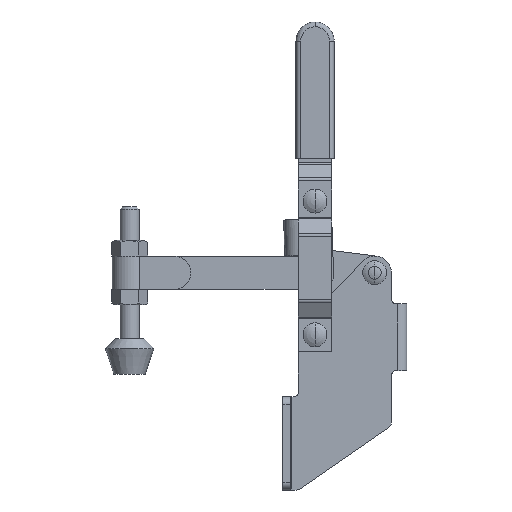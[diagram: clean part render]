
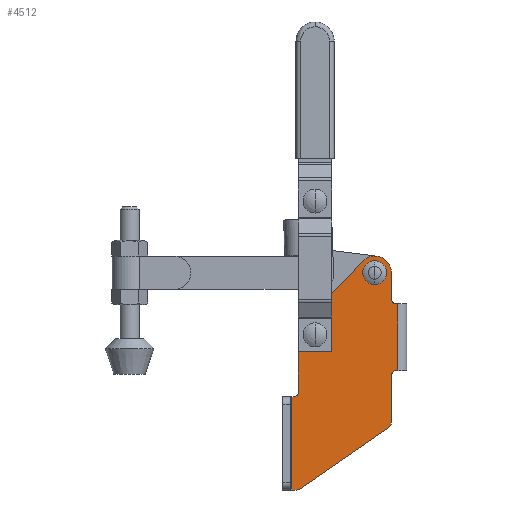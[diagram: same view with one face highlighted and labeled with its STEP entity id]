
A CAD part, front view. The second image highlights one B-rep face of the part: STEP entity #4512.
In plain terms, the highlighted planar face has unit normal (0, -1, 0).
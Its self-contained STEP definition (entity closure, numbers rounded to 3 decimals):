
#2732=CARTESIAN_POINT('Cartesian Point',(111.65,-6.4,29.428)) ;
#2735=CARTESIAN_POINT('Line Origine',(112.,-6.4,29.428)) ;
#2739=CARTESIAN_POINT('Cartesian Point',(112.35,-6.4,29.428)) ;
#2813=CARTESIAN_POINT('Cartesian Point',(111.65,-6.4,1.428)) ;
#2883=CARTESIAN_POINT('Cartesian Point',(112.35,-6.4,1.428)) ;
#2886=CARTESIAN_POINT('Line Origine',(112.,-6.4,1.428)) ;
#3786=CARTESIAN_POINT('Cartesian Point',(72.604,-6.4,21.28)) ;
#3802=CARTESIAN_POINT('Cartesian Point',(70.65,-6.4,16.428)) ;
#3805=CARTESIAN_POINT('Axis2P3D Location',(77.65,-6.4,16.428)) ;
#3826=CARTESIAN_POINT('Cartesian Point',(97.604,-6.4,47.28)) ;
#3836=CARTESIAN_POINT('Line Origine',(85.104,-6.4,34.28)) ;
#3857=CARTESIAN_POINT('Cartesian Point',(109.65,-6.4,42.428)) ;
#3867=CARTESIAN_POINT('Axis2P3D Location',(102.65,-6.4,42.428)) ;
#3888=CARTESIAN_POINT('Cartesian Point',(109.65,-6.4,31.428)) ;
#3898=CARTESIAN_POINT('Line Origine',(109.65,-6.4,36.928)) ;
#3920=CARTESIAN_POINT('Axis2P3D Location',(111.65,-6.4,31.428)) ;
#3941=CARTESIAN_POINT('Cartesian Point',(109.65,-6.4,-0.572)) ;
#3951=CARTESIAN_POINT('Axis2P3D Location',(111.65,-6.4,-0.572)) ;
#3972=CARTESIAN_POINT('Cartesian Point',(109.65,-6.4,-20.)) ;
#3982=CARTESIAN_POINT('Line Origine',(109.65,-6.4,-10.286)) ;
#4003=CARTESIAN_POINT('Cartesian Point',(108.358,-6.4,-22.467)) ;
#4013=CARTESIAN_POINT('Axis2P3D Location',(106.65,-6.4,-20.)) ;
#4034=CARTESIAN_POINT('Cartesian Point',(71.421,-6.4,-48.039)) ;
#4044=CARTESIAN_POINT('Line Origine',(89.889,-6.4,-35.253)) ;
#4065=CARTESIAN_POINT('Cartesian Point',(69.713,-6.4,-48.572)) ;
#4075=CARTESIAN_POINT('Axis2P3D Location',(69.713,-6.4,-45.572)) ;
#4120=CARTESIAN_POINT('Line Origine',(68.781,-6.4,-48.572)) ;
#4124=CARTESIAN_POINT('Cartesian Point',(67.85,-6.4,-48.572)) ;
#4247=CARTESIAN_POINT('Cartesian Point',(67.85,-6.4,-9.572)) ;
#4250=CARTESIAN_POINT('Line Origine',(68.25,-6.4,-9.572)) ;
#4254=CARTESIAN_POINT('Cartesian Point',(68.65,-6.4,-9.572)) ;
#4296=CARTESIAN_POINT('Cartesian Point',(70.65,-6.4,-7.572)) ;
#4306=CARTESIAN_POINT('Axis2P3D Location',(68.65,-6.4,-7.572)) ;
#4328=CARTESIAN_POINT('Line Origine',(70.65,-6.4,4.428)) ;
#4434=CARTESIAN_POINT('Line Origine',(67.85,-6.4,26.428)) ;
#4446=CARTESIAN_POINT('Axis2P3D Location',(112.35,-6.4,101.428)) ;
#4451=CARTESIAN_POINT('Line Origine',(112.35,-6.4,15.428)) ;
#4476=CARTESIAN_POINT('Axis2P3D Location',(77.65,-6.4,16.428)) ;
#4480=CARTESIAN_POINT('Cartesian Point',(77.65,-6.4,19.628)) ;
#4482=CARTESIAN_POINT('Cartesian Point',(77.65,-6.4,13.228)) ;
#4485=CARTESIAN_POINT('Axis2P3D Location',(77.65,-6.4,16.428)) ;
#4494=CARTESIAN_POINT('Axis2P3D Location',(102.65,-6.4,42.428)) ;
#4498=CARTESIAN_POINT('Cartesian Point',(102.65,-6.4,45.628)) ;
#4500=CARTESIAN_POINT('Cartesian Point',(102.65,-6.4,39.228)) ;
#4503=CARTESIAN_POINT('Axis2P3D Location',(102.65,-6.4,42.428)) ;
#2736=DIRECTION('Vector Direction',(1.,0.,0.)) ;
#2887=DIRECTION('Vector Direction',(1.,0.,0.)) ;
#3806=DIRECTION('Axis2P3D Direction',(0.,-1.,0.)) ;
#3837=DIRECTION('Vector Direction',(0.693,0.,0.721)) ;
#3868=DIRECTION('Axis2P3D Direction',(0.,-1.,0.)) ;
#3899=DIRECTION('Vector Direction',(0.,0.,1.)) ;
#3921=DIRECTION('Axis2P3D Direction',(0.,-1.,0.)) ;
#3952=DIRECTION('Axis2P3D Direction',(0.,-1.,0.)) ;
#3983=DIRECTION('Vector Direction',(0.,0.,1.)) ;
#4014=DIRECTION('Axis2P3D Direction',(0.,-1.,0.)) ;
#4045=DIRECTION('Vector Direction',(0.822,0.,0.569)) ;
#4076=DIRECTION('Axis2P3D Direction',(0.,-1.,0.)) ;
#4121=DIRECTION('Vector Direction',(1.,0.,0.)) ;
#4251=DIRECTION('Vector Direction',(1.,0.,0.)) ;
#4307=DIRECTION('Axis2P3D Direction',(0.,-1.,0.)) ;
#4329=DIRECTION('Vector Direction',(0.,0.,1.)) ;
#4435=DIRECTION('Vector Direction',(0.,0.,1.)) ;
#4447=DIRECTION('Axis2P3D Direction',(0.,-1.,0.)) ;
#4448=DIRECTION('Axis2P3D XDirection',(0.,0.,1.)) ;
#4452=DIRECTION('Vector Direction',(0.,0.,-1.)) ;
#4477=DIRECTION('Axis2P3D Direction',(0.,-1.,0.)) ;
#4486=DIRECTION('Axis2P3D Direction',(0.,-1.,0.)) ;
#4495=DIRECTION('Axis2P3D Direction',(0.,-1.,0.)) ;
#4504=DIRECTION('Axis2P3D Direction',(0.,-1.,0.)) ;
#3807=AXIS2_PLACEMENT_3D('Circle Axis2P3D',#3805,#3806,$) ;
#3869=AXIS2_PLACEMENT_3D('Circle Axis2P3D',#3867,#3868,$) ;
#3922=AXIS2_PLACEMENT_3D('Circle Axis2P3D',#3920,#3921,$) ;
#3953=AXIS2_PLACEMENT_3D('Circle Axis2P3D',#3951,#3952,$) ;
#4015=AXIS2_PLACEMENT_3D('Circle Axis2P3D',#4013,#4014,$) ;
#4077=AXIS2_PLACEMENT_3D('Circle Axis2P3D',#4075,#4076,$) ;
#4308=AXIS2_PLACEMENT_3D('Circle Axis2P3D',#4306,#4307,$) ;
#4449=AXIS2_PLACEMENT_3D('Plane Axis2P3D',#4446,#4447,#4448) ;
#4478=AXIS2_PLACEMENT_3D('Circle Axis2P3D',#4476,#4477,$) ;
#4487=AXIS2_PLACEMENT_3D('Circle Axis2P3D',#4485,#4486,$) ;
#4496=AXIS2_PLACEMENT_3D('Circle Axis2P3D',#4494,#4495,$) ;
#4505=AXIS2_PLACEMENT_3D('Circle Axis2P3D',#4503,#4504,$) ;
#4457=ORIENTED_EDGE('Oriented Edge',*,*,#4438,.T.) ;
#4458=ORIENTED_EDGE('Oriented Edge',*,*,#4126,.T.) ;
#4459=ORIENTED_EDGE('Oriented Edge',*,*,#4079,.T.) ;
#4460=ORIENTED_EDGE('Oriented Edge',*,*,#4048,.T.) ;
#4461=ORIENTED_EDGE('Oriented Edge',*,*,#4017,.T.) ;
#4462=ORIENTED_EDGE('Oriented Edge',*,*,#3986,.T.) ;
#4463=ORIENTED_EDGE('Oriented Edge',*,*,#3955,.F.) ;
#4464=ORIENTED_EDGE('Oriented Edge',*,*,#2890,.T.) ;
#4465=ORIENTED_EDGE('Oriented Edge',*,*,#4455,.F.) ;
#4466=ORIENTED_EDGE('Oriented Edge',*,*,#2741,.F.) ;
#4467=ORIENTED_EDGE('Oriented Edge',*,*,#3924,.F.) ;
#4468=ORIENTED_EDGE('Oriented Edge',*,*,#3902,.T.) ;
#4469=ORIENTED_EDGE('Oriented Edge',*,*,#3871,.T.) ;
#4470=ORIENTED_EDGE('Oriented Edge',*,*,#3840,.F.) ;
#4471=ORIENTED_EDGE('Oriented Edge',*,*,#3809,.T.) ;
#4472=ORIENTED_EDGE('Oriented Edge',*,*,#4332,.F.) ;
#4473=ORIENTED_EDGE('Oriented Edge',*,*,#4310,.F.) ;
#4474=ORIENTED_EDGE('Oriented Edge',*,*,#4256,.F.) ;
#4491=ORIENTED_EDGE('Oriented Edge',*,*,#4484,.F.) ;
#4492=ORIENTED_EDGE('Oriented Edge',*,*,#4489,.F.) ;
#4509=ORIENTED_EDGE('Oriented Edge',*,*,#4502,.F.) ;
#4510=ORIENTED_EDGE('Oriented Edge',*,*,#4507,.F.) ;
#4493=FACE_BOUND('Face Bound',#4490,.T.) ;
#4511=FACE_BOUND('Face Bound',#4508,.T.) ;
#2737=VECTOR('Line Direction',#2736,1.) ;
#2888=VECTOR('Line Direction',#2887,1.) ;
#3838=VECTOR('Line Direction',#3837,1.) ;
#3900=VECTOR('Line Direction',#3899,1.) ;
#3984=VECTOR('Line Direction',#3983,1.) ;
#4046=VECTOR('Line Direction',#4045,1.) ;
#4122=VECTOR('Line Direction',#4121,1.) ;
#4252=VECTOR('Line Direction',#4251,1.) ;
#4330=VECTOR('Line Direction',#4329,1.) ;
#4436=VECTOR('Line Direction',#4435,1.) ;
#4453=VECTOR('Line Direction',#4452,1.) ;
#4512=ADVANCED_FACE('',(#4475,#4493,#4511),#4450,.T.) ;
#3808=CIRCLE('generated circle',#3807,7.) ;
#3870=CIRCLE('generated circle',#3869,7.) ;
#3923=CIRCLE('generated circle',#3922,2.) ;
#3954=CIRCLE('generated circle',#3953,2.) ;
#4016=CIRCLE('generated circle',#4015,3.) ;
#4078=CIRCLE('generated circle',#4077,3.) ;
#4309=CIRCLE('generated circle',#4308,2.) ;
#4479=CIRCLE('generated circle',#4478,3.2) ;
#4488=CIRCLE('generated circle',#4487,3.2) ;
#4497=CIRCLE('generated circle',#4496,3.2) ;
#4506=CIRCLE('generated circle',#4505,3.2) ;
#2741=EDGE_CURVE('',#2733,#2740,#2738,.T.) ;
#2890=EDGE_CURVE('',#2814,#2884,#2889,.T.) ;
#3809=EDGE_CURVE('',#3787,#3803,#3808,.T.) ;
#3840=EDGE_CURVE('',#3787,#3827,#3839,.T.) ;
#3871=EDGE_CURVE('',#3858,#3827,#3870,.T.) ;
#3902=EDGE_CURVE('',#3889,#3858,#3901,.T.) ;
#3924=EDGE_CURVE('',#3889,#2733,#3923,.T.) ;
#3955=EDGE_CURVE('',#2814,#3942,#3954,.T.) ;
#3986=EDGE_CURVE('',#3973,#3942,#3985,.T.) ;
#4017=EDGE_CURVE('',#4004,#3973,#4016,.T.) ;
#4048=EDGE_CURVE('',#4035,#4004,#4047,.T.) ;
#4079=EDGE_CURVE('',#4066,#4035,#4078,.T.) ;
#4126=EDGE_CURVE('',#4125,#4066,#4123,.T.) ;
#4256=EDGE_CURVE('',#4248,#4255,#4253,.T.) ;
#4310=EDGE_CURVE('',#4255,#4297,#4309,.T.) ;
#4332=EDGE_CURVE('',#4297,#3803,#4331,.T.) ;
#4438=EDGE_CURVE('',#4248,#4125,#4437,.F.) ;
#4455=EDGE_CURVE('',#2740,#2884,#4454,.T.) ;
#4484=EDGE_CURVE('',#4481,#4483,#4479,.T.) ;
#4489=EDGE_CURVE('',#4483,#4481,#4488,.T.) ;
#4502=EDGE_CURVE('',#4499,#4501,#4497,.T.) ;
#4507=EDGE_CURVE('',#4501,#4499,#4506,.T.) ;
#4456=EDGE_LOOP('Oriented Loop',(#4457,#4458,#4459,#4460,#4461,#4462,#4463,#4464,#4465,#4466,#4467,#4468,#4469,#4470,#4471,#4472,#4473,#4474)) ;
#4490=EDGE_LOOP('Oriented Loop',(#4491,#4492)) ;
#4508=EDGE_LOOP('Oriented Loop',(#4509,#4510)) ;
#4475=FACE_OUTER_BOUND('Face Bound',#4456,.T.) ;
#2738=LINE('Line',#2735,#2737) ;
#2889=LINE('Line',#2886,#2888) ;
#3839=LINE('Line',#3836,#3838) ;
#3901=LINE('Line',#3898,#3900) ;
#3985=LINE('Line',#3982,#3984) ;
#4047=LINE('Line',#4044,#4046) ;
#4123=LINE('Line',#4120,#4122) ;
#4253=LINE('Line',#4250,#4252) ;
#4331=LINE('Line',#4328,#4330) ;
#4437=LINE('Line',#4434,#4436) ;
#4454=LINE('Line',#4451,#4453) ;
#4450=PLANE('Plane',#4449) ;
#2733=VERTEX_POINT('Vertex Point',#2732) ;
#2740=VERTEX_POINT('Vertex Point',#2739) ;
#2814=VERTEX_POINT('Vertex Point',#2813) ;
#2884=VERTEX_POINT('Vertex Point',#2883) ;
#3787=VERTEX_POINT('Vertex Point',#3786) ;
#3803=VERTEX_POINT('Vertex Point',#3802) ;
#3827=VERTEX_POINT('Vertex Point',#3826) ;
#3858=VERTEX_POINT('Vertex Point',#3857) ;
#3889=VERTEX_POINT('Vertex Point',#3888) ;
#3942=VERTEX_POINT('Vertex Point',#3941) ;
#3973=VERTEX_POINT('Vertex Point',#3972) ;
#4004=VERTEX_POINT('Vertex Point',#4003) ;
#4035=VERTEX_POINT('Vertex Point',#4034) ;
#4066=VERTEX_POINT('Vertex Point',#4065) ;
#4125=VERTEX_POINT('Vertex Point',#4124) ;
#4248=VERTEX_POINT('Vertex Point',#4247) ;
#4255=VERTEX_POINT('Vertex Point',#4254) ;
#4297=VERTEX_POINT('Vertex Point',#4296) ;
#4481=VERTEX_POINT('Vertex Point',#4480) ;
#4483=VERTEX_POINT('Vertex Point',#4482) ;
#4499=VERTEX_POINT('Vertex Point',#4498) ;
#4501=VERTEX_POINT('Vertex Point',#4500) ;
